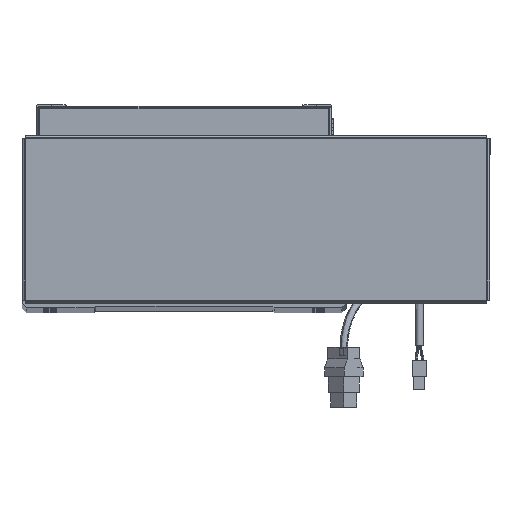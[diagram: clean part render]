
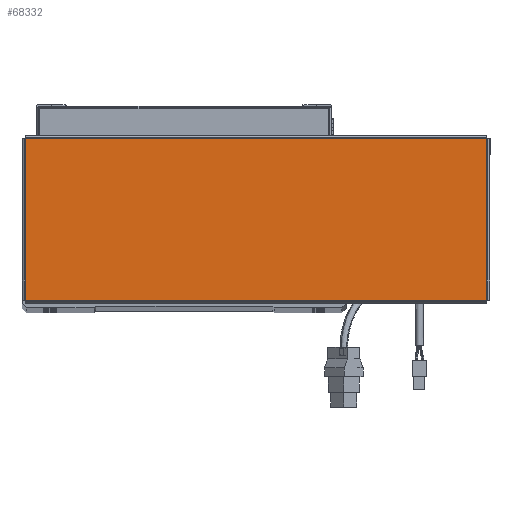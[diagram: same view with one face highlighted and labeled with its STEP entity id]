
A CAD part, top view. The second image highlights one B-rep face of the part: STEP entity #68332.
In plain terms, the highlighted planar face has unit normal (0, 0, 1).
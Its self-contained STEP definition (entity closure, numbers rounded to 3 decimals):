
#210 = DIRECTION ( 'NONE',  ( -1., 0., 0. ) ) ;
#885 = ORIENTED_EDGE ( 'NONE', *, *, #17996, .T. ) ;
#1392 = DIRECTION ( 'NONE',  ( 1., 0., 0. ) ) ;
#2509 = LINE ( 'NONE', #53514, #42163 ) ;
#4002 = ORIENTED_EDGE ( 'NONE', *, *, #17521, .T. ) ;
#8037 = LINE ( 'NONE', #22347, #47726 ) ;
#9007 = LINE ( 'NONE', #30865, #63048 ) ;
#9881 = DIRECTION ( 'NONE',  ( 0., 1., 0. ) ) ;
#10349 = CARTESIAN_POINT ( 'NONE',  ( 156.513, 54.763, 0. ) ) ;
#12187 = LINE ( 'NONE', #55787, #39222 ) ;
#13820 = EDGE_CURVE ( 'NONE', #47997, #14916, #9007, .T. ) ;
#14916 = VERTEX_POINT ( 'NONE', #10349 ) ;
#15994 = PLANE ( 'NONE',  #32360 ) ;
#17521 = EDGE_CURVE ( 'NONE', #46579, #47997, #8037, .T. ) ;
#17996 = EDGE_CURVE ( 'NONE', #55187, #46579, #12187, .T. ) ;
#20419 = CARTESIAN_POINT ( 'NONE',  ( -156.513, 54.763, 0. ) ) ;
#20962 = ORIENTED_EDGE ( 'NONE', *, *, #60147, .T. ) ;
#22347 = CARTESIAN_POINT ( 'NONE',  ( -156.543, -54.763, 0. ) ) ;
#30865 = CARTESIAN_POINT ( 'NONE',  ( 156.513, -54.793, 0. ) ) ;
#31259 = EDGE_LOOP ( 'NONE', ( #4002, #42709, #20962, #885 ) ) ;
#32360 = AXIS2_PLACEMENT_3D ( 'NONE', #37692, #54016, #32722 ) ;
#32722 = DIRECTION ( 'NONE',  ( 1., 0., 0. ) ) ;
#34662 = FACE_OUTER_BOUND ( 'NONE', #31259, .T. ) ;
#37692 = CARTESIAN_POINT ( 'NONE',  ( 0., 0., 0. ) ) ;
#39222 = VECTOR ( 'NONE', #39240, 1000. ) ;
#39240 = DIRECTION ( 'NONE',  ( 0., -1., 0. ) ) ;
#42163 = VECTOR ( 'NONE', #210, 1000. ) ;
#42709 = ORIENTED_EDGE ( 'NONE', *, *, #13820, .T. ) ;
#43313 = CARTESIAN_POINT ( 'NONE',  ( -156.513, -54.763, 0. ) ) ;
#46579 = VERTEX_POINT ( 'NONE', #43313 ) ;
#47726 = VECTOR ( 'NONE', #1392, 1000. ) ;
#47997 = VERTEX_POINT ( 'NONE', #56830 ) ;
#53514 = CARTESIAN_POINT ( 'NONE',  ( 156.543, 54.763, 0. ) ) ;
#54016 = DIRECTION ( 'NONE',  ( 0., 0., 1. ) ) ;
#55187 = VERTEX_POINT ( 'NONE', #20419 ) ;
#55787 = CARTESIAN_POINT ( 'NONE',  ( -156.513, 54.793, 0. ) ) ;
#56830 = CARTESIAN_POINT ( 'NONE',  ( 156.513, -54.763, 0. ) ) ;
#60147 = EDGE_CURVE ( 'NONE', #14916, #55187, #2509, .T. ) ;
#63048 = VECTOR ( 'NONE', #9881, 1000. ) ;
#68332 = ADVANCED_FACE ( 'NONE', ( #34662 ), #15994, .T. ) ;
